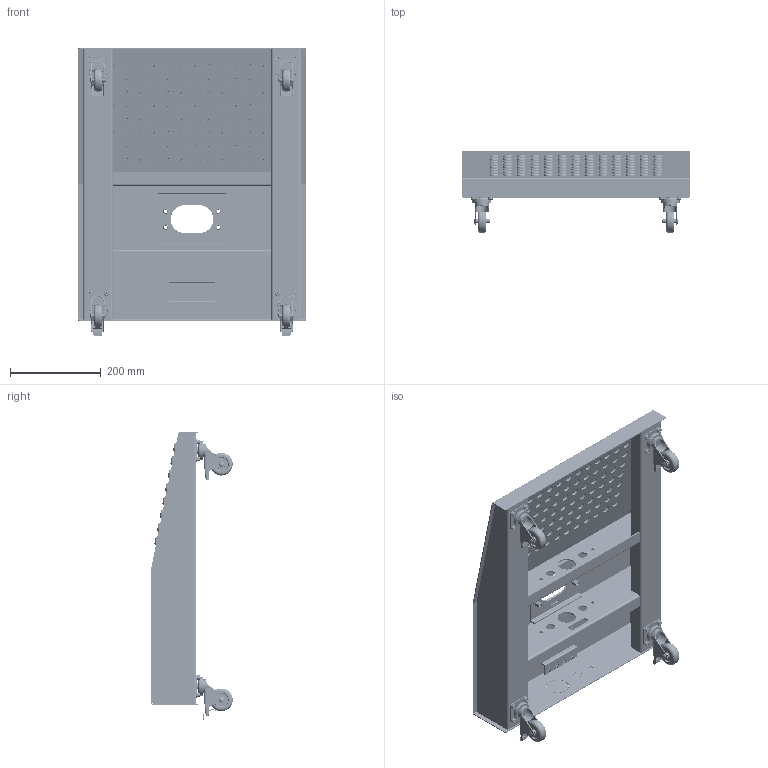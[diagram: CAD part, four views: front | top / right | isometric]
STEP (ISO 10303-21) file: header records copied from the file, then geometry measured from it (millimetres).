
FILE_DESCRIPTION (( 'STEP AP203' ), '1' );
FILE_NAME ('KS.060.02.STEP', '2024-10-17T10:54:22', ( '' ), ( '' ), 'SwSTEP 2.0', 'SolidWorks 2022', '' );
FILE_SCHEMA (( 'CONFIG_CONTROL_DESIGN' ));
Products named in the file (1): KS.060.02
Bounding box: 500 x 179 x 633.47 mm (x, y, z)
Volume: 1975048 mm3; surface area: 1571377.6 mm2
Topology: 49 solids, 53 shells, 4298 faces, 9538 edges, 5647 vertices
Faces by surface type: cylinder 1458, plane 1260, cone 992, torus 384, sphere 128, bspline 76
Full cylindrical faces by diameter (mm): 3 x8, 4.9 x16, 6 x224, 6.5 x16, 7.485 x16, 7.8 x16, 8 x4, 8.9 x4, 9.8 x4, 10 x16, 11 x16, 11.694 x8, 11.8 x4, 12 x8, 13.692 x4, 15 x4, 16 x8, 18 x104, 20 x4, 26 x4, 30 x4, 32 x8, 38 x8, 40 x2, 41 x4, 50 x4
Entity records: 113722 total; most frequent: CARTESIAN_POINT 24716, DIRECTION 19475, ORIENTED_EDGE 15650, AXIS2_PLACEMENT_3D 8083, EDGE_CURVE 7825, EDGE_LOOP 6415, VERTEX_POINT 5528, FACE_OUTER_BOUND 5060
